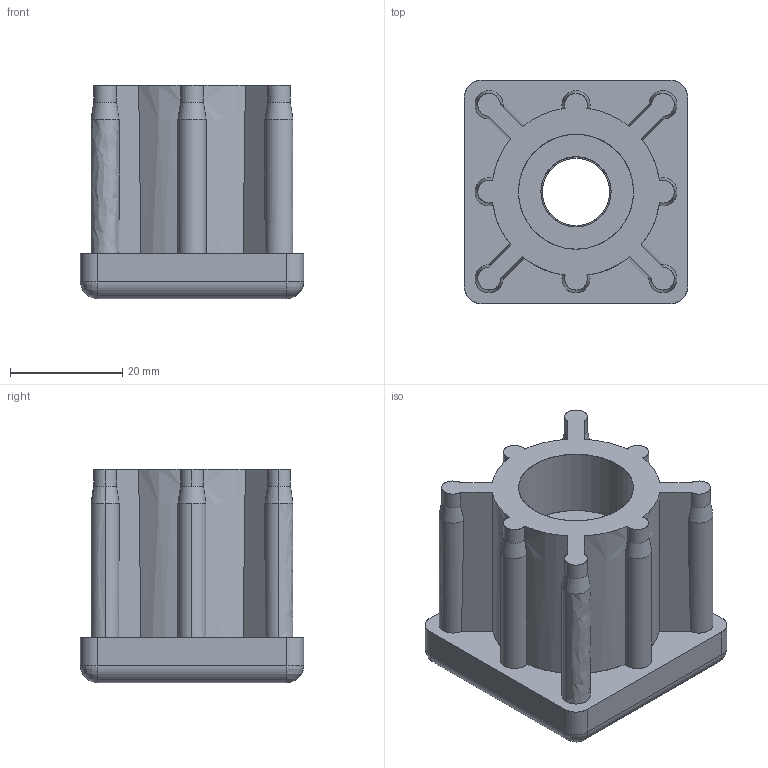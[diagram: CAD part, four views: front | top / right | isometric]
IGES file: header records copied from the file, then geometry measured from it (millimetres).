
Start section: SolidWorks IGES file using analytic representation for surfaces
Global section: file name: Y:\Tecnodin, S.L\Planos Clientes - Documentos\General\PLANOS CLIENTES\3D\-REVISAR-\CONTERAS TECOM\42006840312.IGS; native system: SolidWorks 2018; preprocessor: SolidWorks 2018; author: GerPro; date: 200226.113707; units: millimetre
Bounding box: 39.8 x 39.8 x 38 mm (x, y, z)
Surface area: 12414.1 mm2 (no closed solid volume)
Topology: 0 solids, 0 shells, 110 faces, 1210 edges, 1206 vertices
Faces by surface type: revolution 91, bspline 19
